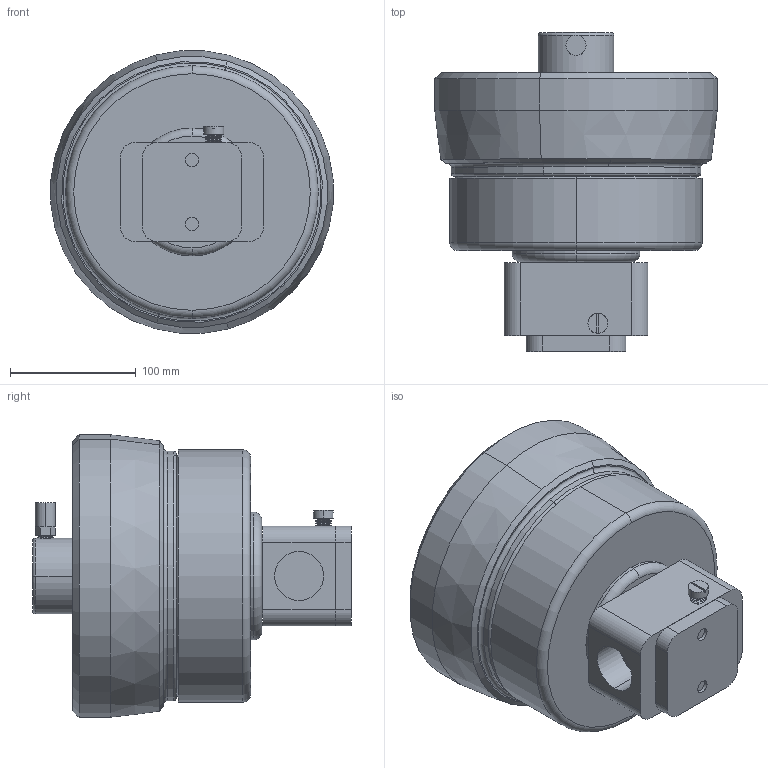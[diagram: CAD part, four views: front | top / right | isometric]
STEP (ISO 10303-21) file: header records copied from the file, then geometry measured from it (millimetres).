
FILE_DESCRIPTION (( 'STEP AP214' ), '1' );
FILE_NAME ('DBH140 in line.STEP', '2013-09-19T20:25:39', ( '' ), ( '' ), 'SwSTEP 2.0', 'SolidWorks 2012', '' );
FILE_SCHEMA (( 'AUTOMOTIVE_DESIGN' ));
Length unit declared in the file: inch
Products named in the file (1): DBH140 in line
Bounding box: 224.37 x 253.44 x 224.37 mm (x, y, z)
Volume: 7293694.7 mm3; surface area: 416566.9 mm2
Topology: 14 solids, 14 shells, 707 faces, 1502 edges, 891 vertices
Faces by surface type: cone 312, cylinder 221, plane 124, torus 50
Entity records: 19431 total; most frequent: DIRECTION 3812, CARTESIAN_POINT 3099, ORIENTED_EDGE 3000, AXIS2_PLACEMENT_3D 1604, EDGE_CURVE 1500, CIRCLE 896, VERTEX_POINT 891, EDGE_LOOP 793
